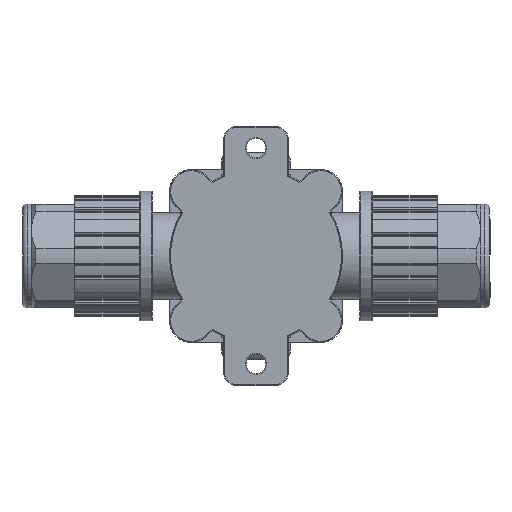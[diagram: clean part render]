
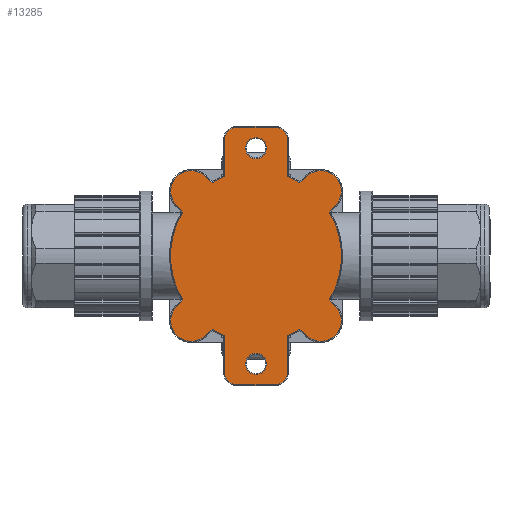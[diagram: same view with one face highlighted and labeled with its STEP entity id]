
A CAD part, front view. The second image highlights one B-rep face of the part: STEP entity #13285.
In plain terms, the highlighted planar face has unit normal (0, -1, 0).
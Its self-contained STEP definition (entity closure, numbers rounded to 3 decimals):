
#303=FACE_BOUND($,#2350,.T.);
#304=FACE_BOUND($,#2351,.T.);
#940=PLANE($,#14328);
#1432=FACE_OUTER_BOUND($,#2349,.T.);
#2349=EDGE_LOOP($,(#10168,#10169,#10170,#10171,#10172,#10173,#10174,#10175,
#10176,#10177,#10178,#10179,#10180,#10181,#10182,#10183,#10184,#10185,#10186,
#10187,#10188,#10189,#10190,#10191,#10192,#10193,#10194,#10195));
#2350=EDGE_LOOP($,(#10196));
#2351=EDGE_LOOP($,(#10197));
#3136=CIRCLE($,#14329,4.8);
#3137=CIRCLE($,#14330,19.8);
#3138=CIRCLE($,#14331,2.8);
#3139=CIRCLE($,#14332,2.8);
#3140=CIRCLE($,#14333,19.8);
#3141=CIRCLE($,#14334,4.8);
#3142=CIRCLE($,#14335,19.8);
#3143=CIRCLE($,#14336,4.8);
#3144=CIRCLE($,#14337,19.8);
#3145=CIRCLE($,#14338,2.8);
#3146=CIRCLE($,#14339,2.8);
#3147=CIRCLE($,#14340,19.8);
#3148=CIRCLE($,#14341,4.8);
#3149=CIRCLE($,#14342,19.8);
#3150=CIRCLE($,#14343,2.45);
#3151=CIRCLE($,#14344,2.45);
#3745=LINE($,#21331,#4849);
#3746=LINE($,#21335,#4850);
#3747=LINE($,#21339,#4851);
#3748=LINE($,#21343,#4852);
#3749=LINE($,#21347,#4853);
#3750=LINE($,#21351,#4854);
#3751=LINE($,#21355,#4855);
#3752=LINE($,#21359,#4856);
#3753=LINE($,#21363,#4857);
#3754=LINE($,#21367,#4858);
#3755=LINE($,#21371,#4859);
#3756=LINE($,#21375,#4860);
#3757=LINE($,#21379,#4861);
#3758=LINE($,#21382,#4862);
#4849=VECTOR($,#16392,2.004);
#4850=VECTOR($,#16395,8.595);
#4851=VECTOR($,#16398,9.);
#4852=VECTOR($,#16401,8.595);
#4853=VECTOR($,#16404,2.004);
#4854=VECTOR($,#16407,2.004);
#4855=VECTOR($,#16410,2.004);
#4856=VECTOR($,#16413,2.004);
#4857=VECTOR($,#16416,8.595);
#4858=VECTOR($,#16419,9.);
#4859=VECTOR($,#16422,8.595);
#4860=VECTOR($,#16425,2.004);
#4861=VECTOR($,#16428,2.004);
#4862=VECTOR($,#16431,2.004);
#6080=VERTEX_POINT($,#21327);
#6081=VERTEX_POINT($,#21328);
#6082=VERTEX_POINT($,#21330);
#6083=VERTEX_POINT($,#21332);
#6084=VERTEX_POINT($,#21334);
#6085=VERTEX_POINT($,#21336);
#6086=VERTEX_POINT($,#21338);
#6087=VERTEX_POINT($,#21340);
#6088=VERTEX_POINT($,#21342);
#6089=VERTEX_POINT($,#21344);
#6090=VERTEX_POINT($,#21346);
#6091=VERTEX_POINT($,#21348);
#6092=VERTEX_POINT($,#21350);
#6093=VERTEX_POINT($,#21352);
#6094=VERTEX_POINT($,#21354);
#6095=VERTEX_POINT($,#21356);
#6096=VERTEX_POINT($,#21358);
#6097=VERTEX_POINT($,#21360);
#6098=VERTEX_POINT($,#21362);
#6099=VERTEX_POINT($,#21364);
#6100=VERTEX_POINT($,#21366);
#6101=VERTEX_POINT($,#21368);
#6102=VERTEX_POINT($,#21370);
#6103=VERTEX_POINT($,#21372);
#6104=VERTEX_POINT($,#21374);
#6105=VERTEX_POINT($,#21376);
#6106=VERTEX_POINT($,#21378);
#6107=VERTEX_POINT($,#21380);
#6108=VERTEX_POINT($,#21383);
#6109=VERTEX_POINT($,#21385);
#7581=EDGE_CURVE($,#6080,#6081,#3136,.F.);
#7582=EDGE_CURVE($,#6081,#6082,#3745,.F.);
#7583=EDGE_CURVE($,#6082,#6083,#3137,.F.);
#7584=EDGE_CURVE($,#6083,#6084,#3746,.F.);
#7585=EDGE_CURVE($,#6084,#6085,#3138,.F.);
#7586=EDGE_CURVE($,#6085,#6086,#3747,.F.);
#7587=EDGE_CURVE($,#6086,#6087,#3139,.F.);
#7588=EDGE_CURVE($,#6087,#6088,#3748,.F.);
#7589=EDGE_CURVE($,#6088,#6089,#3140,.F.);
#7590=EDGE_CURVE($,#6089,#6090,#3749,.F.);
#7591=EDGE_CURVE($,#6090,#6091,#3141,.F.);
#7592=EDGE_CURVE($,#6091,#6092,#3750,.F.);
#7593=EDGE_CURVE($,#6092,#6093,#3142,.F.);
#7594=EDGE_CURVE($,#6093,#6094,#3751,.F.);
#7595=EDGE_CURVE($,#6094,#6095,#3143,.F.);
#7596=EDGE_CURVE($,#6095,#6096,#3752,.F.);
#7597=EDGE_CURVE($,#6096,#6097,#3144,.F.);
#7598=EDGE_CURVE($,#6097,#6098,#3753,.F.);
#7599=EDGE_CURVE($,#6098,#6099,#3145,.F.);
#7600=EDGE_CURVE($,#6099,#6100,#3754,.F.);
#7601=EDGE_CURVE($,#6100,#6101,#3146,.F.);
#7602=EDGE_CURVE($,#6101,#6102,#3755,.F.);
#7603=EDGE_CURVE($,#6102,#6103,#3147,.F.);
#7604=EDGE_CURVE($,#6103,#6104,#3756,.F.);
#7605=EDGE_CURVE($,#6104,#6105,#3148,.F.);
#7606=EDGE_CURVE($,#6105,#6106,#3757,.F.);
#7607=EDGE_CURVE($,#6106,#6107,#3149,.F.);
#7608=EDGE_CURVE($,#6107,#6080,#3758,.F.);
#7609=EDGE_CURVE($,#6108,#6108,#3150,.T.);
#7610=EDGE_CURVE($,#6109,#6109,#3151,.T.);
#10168=ORIENTED_EDGE($,*,*,#7581,.T.);
#10169=ORIENTED_EDGE($,*,*,#7582,.T.);
#10170=ORIENTED_EDGE($,*,*,#7583,.T.);
#10171=ORIENTED_EDGE($,*,*,#7584,.T.);
#10172=ORIENTED_EDGE($,*,*,#7585,.T.);
#10173=ORIENTED_EDGE($,*,*,#7586,.T.);
#10174=ORIENTED_EDGE($,*,*,#7587,.T.);
#10175=ORIENTED_EDGE($,*,*,#7588,.T.);
#10176=ORIENTED_EDGE($,*,*,#7589,.T.);
#10177=ORIENTED_EDGE($,*,*,#7590,.T.);
#10178=ORIENTED_EDGE($,*,*,#7591,.T.);
#10179=ORIENTED_EDGE($,*,*,#7592,.T.);
#10180=ORIENTED_EDGE($,*,*,#7593,.T.);
#10181=ORIENTED_EDGE($,*,*,#7594,.T.);
#10182=ORIENTED_EDGE($,*,*,#7595,.T.);
#10183=ORIENTED_EDGE($,*,*,#7596,.T.);
#10184=ORIENTED_EDGE($,*,*,#7597,.T.);
#10185=ORIENTED_EDGE($,*,*,#7598,.T.);
#10186=ORIENTED_EDGE($,*,*,#7599,.T.);
#10187=ORIENTED_EDGE($,*,*,#7600,.T.);
#10188=ORIENTED_EDGE($,*,*,#7601,.T.);
#10189=ORIENTED_EDGE($,*,*,#7602,.T.);
#10190=ORIENTED_EDGE($,*,*,#7603,.T.);
#10191=ORIENTED_EDGE($,*,*,#7604,.T.);
#10192=ORIENTED_EDGE($,*,*,#7605,.T.);
#10193=ORIENTED_EDGE($,*,*,#7606,.T.);
#10194=ORIENTED_EDGE($,*,*,#7607,.T.);
#10195=ORIENTED_EDGE($,*,*,#7608,.T.);
#10196=ORIENTED_EDGE($,*,*,#7609,.T.);
#10197=ORIENTED_EDGE($,*,*,#7610,.T.);
#13285=ADVANCED_FACE($,(#1432,#303,#304),#940,.F.);
#14328=AXIS2_PLACEMENT_3D($,#21326,#16388,#16389);
#14329=AXIS2_PLACEMENT_3D($,#21329,#16390,#16391);
#14330=AXIS2_PLACEMENT_3D($,#21333,#16393,#16394);
#14331=AXIS2_PLACEMENT_3D($,#21337,#16396,#16397);
#14332=AXIS2_PLACEMENT_3D($,#21341,#16399,#16400);
#14333=AXIS2_PLACEMENT_3D($,#21345,#16402,#16403);
#14334=AXIS2_PLACEMENT_3D($,#21349,#16405,#16406);
#14335=AXIS2_PLACEMENT_3D($,#21353,#16408,#16409);
#14336=AXIS2_PLACEMENT_3D($,#21357,#16411,#16412);
#14337=AXIS2_PLACEMENT_3D($,#21361,#16414,#16415);
#14338=AXIS2_PLACEMENT_3D($,#21365,#16417,#16418);
#14339=AXIS2_PLACEMENT_3D($,#21369,#16420,#16421);
#14340=AXIS2_PLACEMENT_3D($,#21373,#16423,#16424);
#14341=AXIS2_PLACEMENT_3D($,#21377,#16426,#16427);
#14342=AXIS2_PLACEMENT_3D($,#21381,#16429,#16430);
#14343=AXIS2_PLACEMENT_3D($,#21384,#16432,#16433);
#14344=AXIS2_PLACEMENT_3D($,#21386,#16434,#16435);
#16388=DIRECTION('center_axis',(0.,1.,0.));
#16389=DIRECTION('ref_axis',(0.,0.,1.));
#16390=DIRECTION('center_axis',(0.,1.,0.));
#16391=DIRECTION('ref_axis',(0.,0.,1.));
#16392=DIRECTION($,(0.707,0.,0.707));
#16393=DIRECTION('center_axis',(0.,1.,0.));
#16394=DIRECTION('ref_axis',(0.,0.,1.));
#16395=DIRECTION($,(0.,0.,-1.));
#16396=DIRECTION('center_axis',(0.,1.,0.));
#16397=DIRECTION('ref_axis',(0.,0.,1.));
#16398=DIRECTION($,(1.,0.,0.));
#16399=DIRECTION('center_axis',(0.,1.,0.));
#16400=DIRECTION('ref_axis',(0.,0.,1.));
#16401=DIRECTION($,(0.,0.,1.));
#16402=DIRECTION('center_axis',(0.,1.,0.));
#16403=DIRECTION('ref_axis',(0.,0.,1.));
#16404=DIRECTION($,(0.707,0.,-0.707));
#16405=DIRECTION('center_axis',(0.,1.,0.));
#16406=DIRECTION('ref_axis',(0.,0.,1.));
#16407=DIRECTION($,(-0.707,0.,0.707));
#16408=DIRECTION('center_axis',(0.,1.,0.));
#16409=DIRECTION('ref_axis',(0.,0.,1.));
#16410=DIRECTION($,(0.707,0.,0.707));
#16411=DIRECTION('center_axis',(0.,1.,0.));
#16412=DIRECTION('ref_axis',(0.,0.,1.));
#16413=DIRECTION($,(-0.707,0.,-0.707));
#16414=DIRECTION('center_axis',(0.,1.,0.));
#16415=DIRECTION('ref_axis',(0.,0.,1.));
#16416=DIRECTION($,(0.,0.,1.));
#16417=DIRECTION('center_axis',(0.,1.,0.));
#16418=DIRECTION('ref_axis',(0.,0.,1.));
#16419=DIRECTION($,(-1.,0.,0.));
#16420=DIRECTION('center_axis',(0.,1.,0.));
#16421=DIRECTION('ref_axis',(0.,0.,1.));
#16422=DIRECTION($,(0.,0.,-1.));
#16423=DIRECTION('center_axis',(0.,1.,0.));
#16424=DIRECTION('ref_axis',(0.,0.,1.));
#16425=DIRECTION($,(-0.707,0.,0.707));
#16426=DIRECTION('center_axis',(0.,1.,0.));
#16427=DIRECTION('ref_axis',(0.,0.,1.));
#16428=DIRECTION($,(0.707,0.,-0.707));
#16429=DIRECTION('center_axis',(0.,1.,0.));
#16430=DIRECTION('ref_axis',(0.,0.,1.));
#16431=DIRECTION($,(-0.707,0.,-0.707));
#16432=DIRECTION('center_axis',(0.,1.,0.));
#16433=DIRECTION('ref_axis',(0.,0.,1.));
#16434=DIRECTION('center_axis',(0.,1.,0.));
#16435=DIRECTION('ref_axis',(0.,0.,1.));
#21326=CARTESIAN_POINT('Origin',(0.,0.,0.));
#21327=CARTESIAN_POINT('',(18.394,0.,11.606));
#21328=CARTESIAN_POINT('',(11.606,0.,18.394));
#21329=CARTESIAN_POINT('Origin',(15.,0.,15.));
#21330=CARTESIAN_POINT('',(10.189,0.,16.977));
#21331=CARTESIAN_POINT($,(10.189,0.,16.977));
#21332=CARTESIAN_POINT('',(7.3,0.,18.405));
#21333=CARTESIAN_POINT('Origin',(0.,0.,0.));
#21334=CARTESIAN_POINT('',(7.3,0.,27.));
#21335=CARTESIAN_POINT($,(7.3,0.,27.));
#21336=CARTESIAN_POINT('',(4.5,0.,29.8));
#21337=CARTESIAN_POINT('Origin',(4.5,0.,27.));
#21338=CARTESIAN_POINT('',(-4.5,0.,29.8));
#21339=CARTESIAN_POINT($,(-4.5,0.,29.8));
#21340=CARTESIAN_POINT('',(-7.3,0.,27.));
#21341=CARTESIAN_POINT('Origin',(-4.5,0.,27.));
#21342=CARTESIAN_POINT('',(-7.3,0.,18.405));
#21343=CARTESIAN_POINT($,(-7.3,0.,18.405));
#21344=CARTESIAN_POINT('',(-10.189,0.,16.977));
#21345=CARTESIAN_POINT('Origin',(0.,0.,0.));
#21346=CARTESIAN_POINT('',(-11.606,0.,18.394));
#21347=CARTESIAN_POINT($,(-11.606,0.,18.394));
#21348=CARTESIAN_POINT('',(-18.394,0.,11.606));
#21349=CARTESIAN_POINT('Origin',(-15.,0.,15.));
#21350=CARTESIAN_POINT('',(-16.977,0.,10.189));
#21351=CARTESIAN_POINT($,(-16.977,0.,10.189));
#21352=CARTESIAN_POINT('',(-16.977,0.,-10.189));
#21353=CARTESIAN_POINT('Origin',(0.,0.,0.));
#21354=CARTESIAN_POINT('',(-18.394,0.,-11.606));
#21355=CARTESIAN_POINT($,(-18.394,0.,-11.606));
#21356=CARTESIAN_POINT('',(-11.606,0.,-18.394));
#21357=CARTESIAN_POINT('Origin',(-15.,0.,-15.));
#21358=CARTESIAN_POINT('',(-10.189,0.,-16.977));
#21359=CARTESIAN_POINT($,(-10.189,0.,-16.977));
#21360=CARTESIAN_POINT('',(-7.3,0.,-18.405));
#21361=CARTESIAN_POINT('Origin',(0.,0.,0.));
#21362=CARTESIAN_POINT('',(-7.3,0.,-27.));
#21363=CARTESIAN_POINT($,(-7.3,0.,-27.));
#21364=CARTESIAN_POINT('',(-4.5,0.,-29.8));
#21365=CARTESIAN_POINT('Origin',(-4.5,0.,-27.));
#21366=CARTESIAN_POINT('',(4.5,0.,-29.8));
#21367=CARTESIAN_POINT($,(4.5,0.,-29.8));
#21368=CARTESIAN_POINT('',(7.3,0.,-27.));
#21369=CARTESIAN_POINT('Origin',(4.5,0.,-27.));
#21370=CARTESIAN_POINT('',(7.3,0.,-18.405));
#21371=CARTESIAN_POINT($,(7.3,0.,-18.405));
#21372=CARTESIAN_POINT('',(10.189,0.,-16.977));
#21373=CARTESIAN_POINT('Origin',(0.,0.,0.));
#21374=CARTESIAN_POINT('',(11.606,0.,-18.394));
#21375=CARTESIAN_POINT($,(11.606,0.,-18.394));
#21376=CARTESIAN_POINT('',(18.394,0.,-11.606));
#21377=CARTESIAN_POINT('Origin',(15.,0.,-15.));
#21378=CARTESIAN_POINT('',(16.977,0.,-10.189));
#21379=CARTESIAN_POINT($,(16.977,0.,-10.189));
#21380=CARTESIAN_POINT('',(16.977,0.,10.189));
#21381=CARTESIAN_POINT('Origin',(0.,0.,0.));
#21382=CARTESIAN_POINT($,(18.394,0.,11.606));
#21383=CARTESIAN_POINT('',(0.,0.,27.45));
#21384=CARTESIAN_POINT('Origin',(0.,0.,25.));
#21385=CARTESIAN_POINT('',(0.,0.,-22.55));
#21386=CARTESIAN_POINT('Origin',(0.,0.,-25.));
